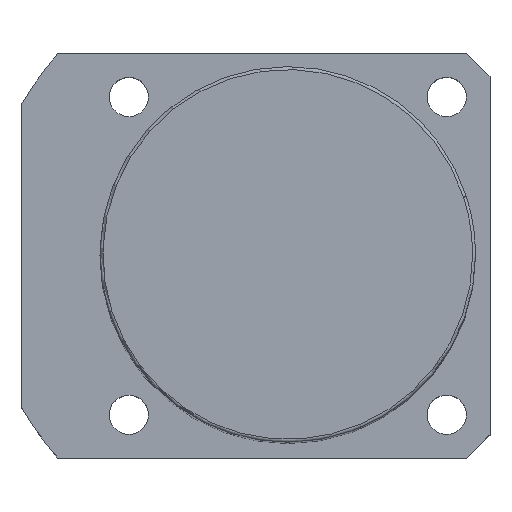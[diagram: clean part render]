
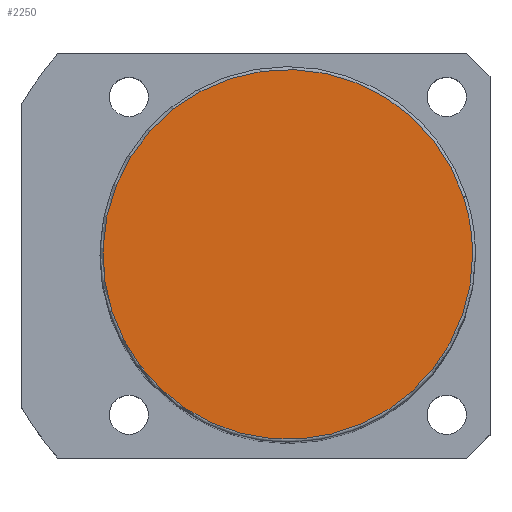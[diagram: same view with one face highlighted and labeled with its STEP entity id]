
A CAD part, top view. The second image highlights one B-rep face of the part: STEP entity #2250.
In plain terms, the highlighted planar face has unit normal (0, 0, 1).
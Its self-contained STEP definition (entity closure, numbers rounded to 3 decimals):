
#2216=CARTESIAN_POINT('',(32.0,0.0,156.0));
#2217=VERTEX_POINT('',#2216);
#2218=CARTESIAN_POINT('',(30.434,9.889,156.0));
#2219=VERTEX_POINT('',#2218);
#2220=CARTESIAN_POINT('',(0.0,0.0,156.0));
#2221=DIRECTION('',(0.0,0.0,1.0));
#2222=DIRECTION('',(1.0,0.0,0.0));
#2223=AXIS2_PLACEMENT_3D('',#2220,#2221,#2222);
#2224=CIRCLE('',#2223,32.0);
#2225=EDGE_CURVE('no 2104',#2217,#2219,#2224,.T.);
#2226=ORIENTED_EDGE('',*,*,#2225,.T.);
#2227=CARTESIAN_POINT('',(-30.434,-9.889,156.0));
#2228=VERTEX_POINT('',#2227);
#2229=CARTESIAN_POINT('',(0.0,0.0,156.0));
#2230=DIRECTION('',(0.0,0.0,1.0));
#2231=DIRECTION('',(1.0,0.0,0.0));
#2232=AXIS2_PLACEMENT_3D('',#2229,#2230,#2231);
#2233=CIRCLE('',#2232,32.0);
#2234=EDGE_CURVE('no 2110',#2219,#2228,#2233,.T.);
#2235=ORIENTED_EDGE('',*,*,#2234,.T.);
#2236=CARTESIAN_POINT('',(0.0,0.0,156.0));
#2237=DIRECTION('',(0.0,0.0,1.0));
#2238=DIRECTION('',(1.0,0.0,0.0));
#2239=AXIS2_PLACEMENT_3D('',#2236,#2237,#2238);
#2240=CIRCLE('',#2239,32.0);
#2241=EDGE_CURVE('no 2114',#2228,#2217,#2240,.T.);
#2242=ORIENTED_EDGE('',*,*,#2241,.T.);
#2243=EDGE_LOOP('',(#2226,#2235,#2242));
#2244=FACE_OUTER_BOUND('',#2243,.T.);
#2245=CARTESIAN_POINT('',(0.0,0.0,156.0));
#2246=DIRECTION('',(0.0,0.0,1.0));
#2247=DIRECTION('',(1.0,0.0,0.0));
#2248=AXIS2_PLACEMENT_3D('',#2245,#2246,#2247);
#2249=PLANE('',#2248);
#2250=ADVANCED_FACE('no 2095',(#2244),#2249,.T.);
